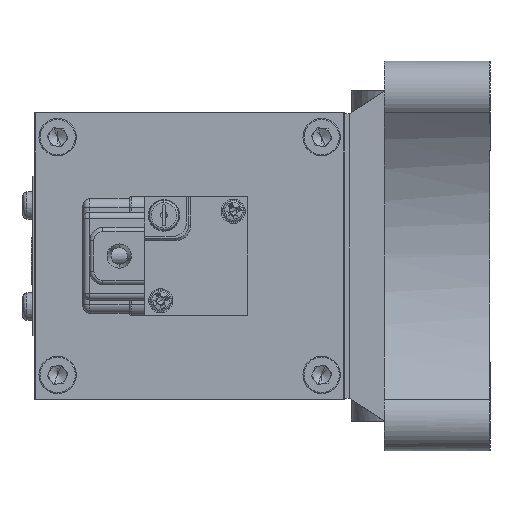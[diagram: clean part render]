
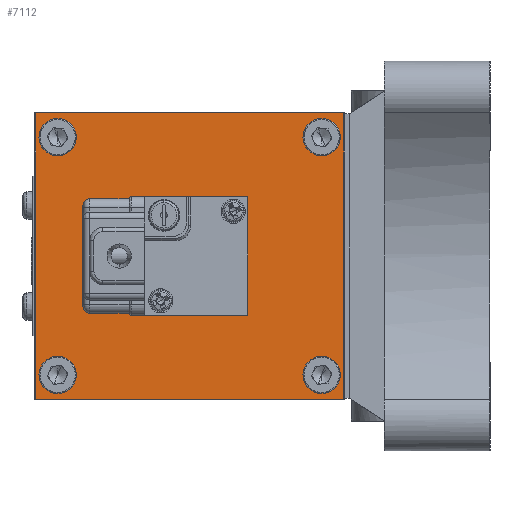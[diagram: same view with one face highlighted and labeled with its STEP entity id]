
A CAD part, left-side view. The second image highlights one B-rep face of the part: STEP entity #7112.
In plain terms, the highlighted planar face has unit normal (-1, 0, 0) as drawn and (0, 0, -1) by its records, which use the part's own axes.
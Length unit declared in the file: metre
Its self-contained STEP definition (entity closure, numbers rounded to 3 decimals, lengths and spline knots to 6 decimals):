
#558 = VERTEX_POINT ( 'NONE', #6256 ) ;
#726 = VECTOR ( 'NONE', #9418, 1. ) ;
#809 = VECTOR ( 'NONE', #13128, 1. ) ;
#827 = CARTESIAN_POINT ( 'NONE',  ( 0., 0.00125, 0. ) ) ;
#975 = VERTEX_POINT ( 'NONE', #11265 ) ;
#1110 = AXIS2_PLACEMENT_3D ( 'NONE', #12291, #2593, #14000 ) ;
#1563 = CIRCLE ( 'NONE', #12597, 0.0025 ) ;
#1714 = EDGE_CURVE ( 'NONE', #975, #8312, #11405, .T. ) ;
#1905 = LINE ( 'NONE', #5715, #9989 ) ;
#1980 = CIRCLE ( 'NONE', #3599, 0.0025 ) ;
#2277 = VERTEX_POINT ( 'NONE', #4333 ) ;
#2334 = FACE_BOUND ( 'NONE', #20738, .T. ) ;
#2586 = CARTESIAN_POINT ( 'NONE',  ( -0.0245, 0.00625, 0. ) ) ;
#2593 = DIRECTION ( 'NONE',  ( 0., 0., -1. ) ) ;
#2977 = ORIENTED_EDGE ( 'NONE', *, *, #12213, .F. ) ;
#3471 = CARTESIAN_POINT ( 'NONE',  ( -0.0325, 0.00125, 0. ) ) ;
#3580 = DIRECTION ( 'NONE',  ( 0., 0., -1. ) ) ;
#3599 = AXIS2_PLACEMENT_3D ( 'NONE', #4081, #15559, #5726 ) ;
#4081 = CARTESIAN_POINT ( 'NONE',  ( -0.027, 0.00625, 0. ) ) ;
#4095 = DIRECTION ( 'NONE',  ( 1., 0., 0. ) ) ;
#4193 = EDGE_LOOP ( 'NONE', ( #17172, #9897 ) ) ;
#4222 = CARTESIAN_POINT ( 'NONE',  ( 0.027, 0.06625, 0. ) ) ;
#4333 = CARTESIAN_POINT ( 'NONE',  ( -0.0325, 0.00125, 0. ) ) ;
#5103 = DIRECTION ( 'NONE',  ( 1., 0., 0. ) ) ;
#5573 = LINE ( 'NONE', #7791, #726 ) ;
#5647 = LINE ( 'NONE', #11455, #809 ) ;
#5715 = CARTESIAN_POINT ( 'NONE',  ( 0.0325, 0.03625, 0. ) ) ;
#5726 = DIRECTION ( 'NONE',  ( 1., 0., 0. ) ) ;
#5758 = ORIENTED_EDGE ( 'NONE', *, *, #20028, .F. ) ;
#5885 = DIRECTION ( 'NONE',  ( 1., 0., 0. ) ) ;
#5930 = VERTEX_POINT ( 'NONE', #9593 ) ;
#6161 = FACE_OUTER_BOUND ( 'NONE', #9552, .T. ) ;
#6243 = EDGE_LOOP ( 'NONE', ( #9896, #15875 ) ) ;
#6256 = CARTESIAN_POINT ( 'NONE',  ( -0.0295, 0.00625, 0. ) ) ;
#6660 = FACE_BOUND ( 'NONE', #13389, .T. ) ;
#6794 = CARTESIAN_POINT ( 'NONE',  ( -0.0245, 0.06625, 0. ) ) ;
#7112 = ADVANCED_FACE ( 'NONE', ( #6660, #2334, #14899, #10427, #6161 ), #19914, .F. ) ;
#7399 = LINE ( 'NONE', #827, #19060 ) ;
#7695 = AXIS2_PLACEMENT_3D ( 'NONE', #7771, #19384, #9396 ) ;
#7771 = CARTESIAN_POINT ( 'NONE',  ( -0.027, 0.06625, 0. ) ) ;
#7791 = CARTESIAN_POINT ( 'NONE',  ( 0., 0.07125, 0. ) ) ;
#8294 = EDGE_CURVE ( 'NONE', #8312, #975, #20353, .T. ) ;
#8312 = VERTEX_POINT ( 'NONE', #16289 ) ;
#8662 = EDGE_CURVE ( 'NONE', #12721, #558, #12706, .T. ) ;
#8704 = EDGE_CURVE ( 'NONE', #9888, #8910, #20602, .T. ) ;
#8910 = VERTEX_POINT ( 'NONE', #19507 ) ;
#8948 = DIRECTION ( 'NONE',  ( 0., 1., 0. ) ) ;
#8961 = CARTESIAN_POINT ( 'NONE',  ( -0.027, 0.00625, 0. ) ) ;
#9396 = DIRECTION ( 'NONE',  ( 1., 0., 0. ) ) ;
#9418 = DIRECTION ( 'NONE',  ( -1., 0., 0. ) ) ;
#9552 = EDGE_LOOP ( 'NONE', ( #21205, #5758, #13932, #21316 ) ) ;
#9593 = CARTESIAN_POINT ( 'NONE',  ( -0.0325, 0.07125, 0. ) ) ;
#9605 = DIRECTION ( 'NONE',  ( 0., 0., -1. ) ) ;
#9817 = VERTEX_POINT ( 'NONE', #16518 ) ;
#9839 = ORIENTED_EDGE ( 'NONE', *, *, #8704, .F. ) ;
#9888 = VERTEX_POINT ( 'NONE', #6794 ) ;
#9896 = ORIENTED_EDGE ( 'NONE', *, *, #8662, .F. ) ;
#9897 = ORIENTED_EDGE ( 'NONE', *, *, #8294, .F. ) ;
#9925 = VERTEX_POINT ( 'NONE', #15080 ) ;
#9989 = VECTOR ( 'NONE', #8948, 1. ) ;
#10427 = FACE_BOUND ( 'NONE', #4193, .T. ) ;
#10428 = AXIS2_PLACEMENT_3D ( 'NONE', #13308, #3580, #15021 ) ;
#10532 = EDGE_CURVE ( 'NONE', #9925, #19185, #1905, .T. ) ;
#10567 = DIRECTION ( 'NONE',  ( 1., 0., 0. ) ) ;
#10835 = VERTEX_POINT ( 'NONE', #21317 ) ;
#11265 = CARTESIAN_POINT ( 'NONE',  ( 0.0295, 0.00625, 0. ) ) ;
#11405 = CIRCLE ( 'NONE', #12016, 0.0025 ) ;
#11455 = CARTESIAN_POINT ( 'NONE',  ( -0.0325, 0.03625, 0. ) ) ;
#12016 = AXIS2_PLACEMENT_3D ( 'NONE', #21032, #21077, #21081 ) ;
#12069 = CARTESIAN_POINT ( 'NONE',  ( 0.0325, 0.07125, 0. ) ) ;
#12213 = EDGE_CURVE ( 'NONE', #8910, #9888, #15188, .T. ) ;
#12216 = ORIENTED_EDGE ( 'NONE', *, *, #16252, .F. ) ;
#12291 = CARTESIAN_POINT ( 'NONE',  ( -0.027, 0.06625, 0. ) ) ;
#12385 = AXIS2_PLACEMENT_3D ( 'NONE', #8961, #20618, #10567 ) ;
#12597 = AXIS2_PLACEMENT_3D ( 'NONE', #4222, #15710, #5885 ) ;
#12706 = CIRCLE ( 'NONE', #12385, 0.0025 ) ;
#12721 = VERTEX_POINT ( 'NONE', #2586 ) ;
#13128 = DIRECTION ( 'NONE',  ( 0., -1., 0. ) ) ;
#13293 = EDGE_CURVE ( 'NONE', #5930, #2277, #5647, .T. ) ;
#13308 = CARTESIAN_POINT ( 'NONE',  ( 0.027, 0.06625, 0. ) ) ;
#13389 = EDGE_LOOP ( 'NONE', ( #9839, #2977 ) ) ;
#13566 = EDGE_CURVE ( 'NONE', #2277, #9925, #7399, .T. ) ;
#13613 = EDGE_CURVE ( 'NONE', #9817, #10835, #1563, .T. ) ;
#13932 = ORIENTED_EDGE ( 'NONE', *, *, #10532, .F. ) ;
#14000 = DIRECTION ( 'NONE',  ( 1., 0., 0. ) ) ;
#14214 = ORIENTED_EDGE ( 'NONE', *, *, #13613, .F. ) ;
#14899 = FACE_BOUND ( 'NONE', #6243, .T. ) ;
#14939 = DIRECTION ( 'NONE',  ( 0., 0., 1. ) ) ;
#15021 = DIRECTION ( 'NONE',  ( 1., 0., 0. ) ) ;
#15080 = CARTESIAN_POINT ( 'NONE',  ( 0.0325, 0.00125, 0. ) ) ;
#15188 = CIRCLE ( 'NONE', #7695, 0.0025 ) ;
#15559 = DIRECTION ( 'NONE',  ( 0., 0., -1. ) ) ;
#15710 = DIRECTION ( 'NONE',  ( 0., 0., -1. ) ) ;
#15875 = ORIENTED_EDGE ( 'NONE', *, *, #21049, .F. ) ;
#16252 = EDGE_CURVE ( 'NONE', #10835, #9817, #19816, .T. ) ;
#16289 = CARTESIAN_POINT ( 'NONE',  ( 0.0245, 0.00625, 0. ) ) ;
#16518 = CARTESIAN_POINT ( 'NONE',  ( 0.0245, 0.06625, 0. ) ) ;
#17172 = ORIENTED_EDGE ( 'NONE', *, *, #1714, .F. ) ;
#17316 = AXIS2_PLACEMENT_3D ( 'NONE', #19615, #9605, #21284 ) ;
#19060 = VECTOR ( 'NONE', #4095, 1. ) ;
#19185 = VERTEX_POINT ( 'NONE', #12069 ) ;
#19384 = DIRECTION ( 'NONE',  ( 0., 0., -1. ) ) ;
#19507 = CARTESIAN_POINT ( 'NONE',  ( -0.0295, 0.06625, 0. ) ) ;
#19615 = CARTESIAN_POINT ( 'NONE',  ( 0.027, 0.00625, 0. ) ) ;
#19816 = CIRCLE ( 'NONE', #10428, 0.0025 ) ;
#19914 = PLANE ( 'NONE',  #21255 ) ;
#20028 = EDGE_CURVE ( 'NONE', #19185, #5930, #5573, .T. ) ;
#20353 = CIRCLE ( 'NONE', #17316, 0.0025 ) ;
#20602 = CIRCLE ( 'NONE', #1110, 0.0025 ) ;
#20618 = DIRECTION ( 'NONE',  ( 0., 0., -1. ) ) ;
#20738 = EDGE_LOOP ( 'NONE', ( #12216, #14214 ) ) ;
#21032 = CARTESIAN_POINT ( 'NONE',  ( 0.027, 0.00625, 0. ) ) ;
#21049 = EDGE_CURVE ( 'NONE', #558, #12721, #1980, .T. ) ;
#21077 = DIRECTION ( 'NONE',  ( 0., 0., -1. ) ) ;
#21081 = DIRECTION ( 'NONE',  ( 1., 0., 0. ) ) ;
#21205 = ORIENTED_EDGE ( 'NONE', *, *, #13293, .F. ) ;
#21255 = AXIS2_PLACEMENT_3D ( 'NONE', #3471, #14939, #5103 ) ;
#21284 = DIRECTION ( 'NONE',  ( 1., 0., 0. ) ) ;
#21316 = ORIENTED_EDGE ( 'NONE', *, *, #13566, .F. ) ;
#21317 = CARTESIAN_POINT ( 'NONE',  ( 0.0295, 0.06625, 0. ) ) ;
